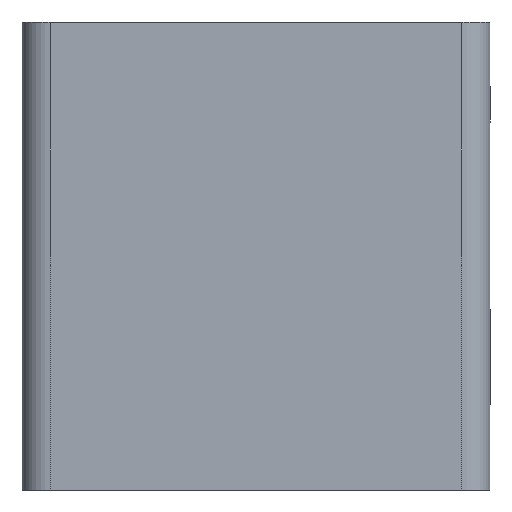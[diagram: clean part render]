
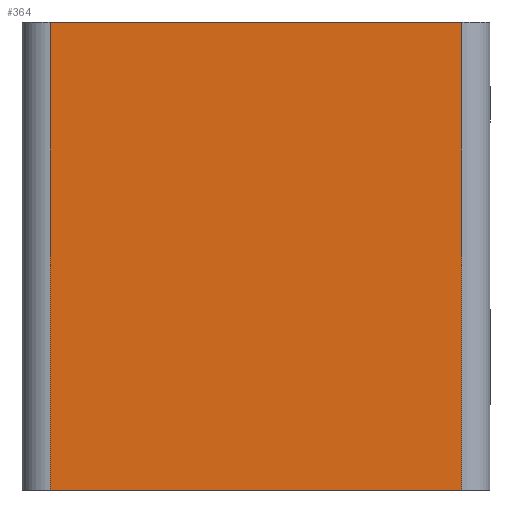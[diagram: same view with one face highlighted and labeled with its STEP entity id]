
A CAD part, front view. The second image highlights one B-rep face of the part: STEP entity #364.
In plain terms, the highlighted planar face has unit normal (0, -1, 0).
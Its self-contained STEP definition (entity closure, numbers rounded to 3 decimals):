
#66 = CARTESIAN_POINT ( 'NONE',  ( -10.9, 0., -12.4 ) ) ;
#67 = EDGE_CURVE ( 'NONE', #2499, #2025, #360, .T. ) ;
#158 = ORIENTED_EDGE ( 'NONE', *, *, #3010, .T. ) ;
#191 = DIRECTION ( 'NONE',  ( 1., 0., 0. ) ) ;
#339 = DIRECTION ( 'NONE',  ( 1., 0., 0. ) ) ;
#360 = LINE ( 'NONE', #2948, #2397 ) ;
#364 = ADVANCED_FACE ( 'NONE', ( #2177 ), #3067, .T. ) ;
#450 = ORIENTED_EDGE ( 'NONE', *, *, #2577, .T. ) ;
#493 = CARTESIAN_POINT ( 'NONE',  ( -10.9, 0., -12.4 ) ) ;
#528 = DIRECTION ( 'NONE',  ( 0., -1., 0. ) ) ;
#615 = ORIENTED_EDGE ( 'NONE', *, *, #1234, .F. ) ;
#777 = VECTOR ( 'NONE', #1207, 1000. ) ;
#856 = LINE ( 'NONE', #2872, #777 ) ;
#1207 = DIRECTION ( 'NONE',  ( 0., 0., 1. ) ) ;
#1234 = EDGE_CURVE ( 'NONE', #2227, #2499, #2445, .T. ) ;
#1333 = DIRECTION ( 'NONE',  ( 0., 0., 1. ) ) ;
#1400 = VECTOR ( 'NONE', #339, 1000. ) ;
#1692 = VECTOR ( 'NONE', #1333, 1000. ) ;
#1886 = CARTESIAN_POINT ( 'NONE',  ( 10.9, 0., -12.4 ) ) ;
#2025 = VERTEX_POINT ( 'NONE', #2439 ) ;
#2064 = VERTEX_POINT ( 'NONE', #1886 ) ;
#2177 = FACE_OUTER_BOUND ( 'NONE', #2616, .T. ) ;
#2227 = VERTEX_POINT ( 'NONE', #2674 ) ;
#2397 = VECTOR ( 'NONE', #191, 1000. ) ;
#2439 = CARTESIAN_POINT ( 'NONE',  ( 10.9, 0., 12.4 ) ) ;
#2445 = LINE ( 'NONE', #493, #1692 ) ;
#2499 = VERTEX_POINT ( 'NONE', #3104 ) ;
#2577 = EDGE_CURVE ( 'NONE', #2064, #2025, #856, .T. ) ;
#2584 = ORIENTED_EDGE ( 'NONE', *, *, #67, .F. ) ;
#2616 = EDGE_LOOP ( 'NONE', ( #2584, #615, #158, #450 ) ) ;
#2674 = CARTESIAN_POINT ( 'NONE',  ( -10.9, 0., -12.4 ) ) ;
#2865 = LINE ( 'NONE', #66, #1400 ) ;
#2871 = AXIS2_PLACEMENT_3D ( 'NONE', #3551, #528, #3252 ) ;
#2872 = CARTESIAN_POINT ( 'NONE',  ( 10.9, 0., -12.4 ) ) ;
#2948 = CARTESIAN_POINT ( 'NONE',  ( -10.9, 0., 12.4 ) ) ;
#3010 = EDGE_CURVE ( 'NONE', #2227, #2064, #2865, .T. ) ;
#3067 = PLANE ( 'NONE',  #2871 ) ;
#3104 = CARTESIAN_POINT ( 'NONE',  ( -10.9, 0., 12.4 ) ) ;
#3252 = DIRECTION ( 'NONE',  ( 0., 0., -1. ) ) ;
#3551 = CARTESIAN_POINT ( 'NONE',  ( -10.9, 0., -12.4 ) ) ;
